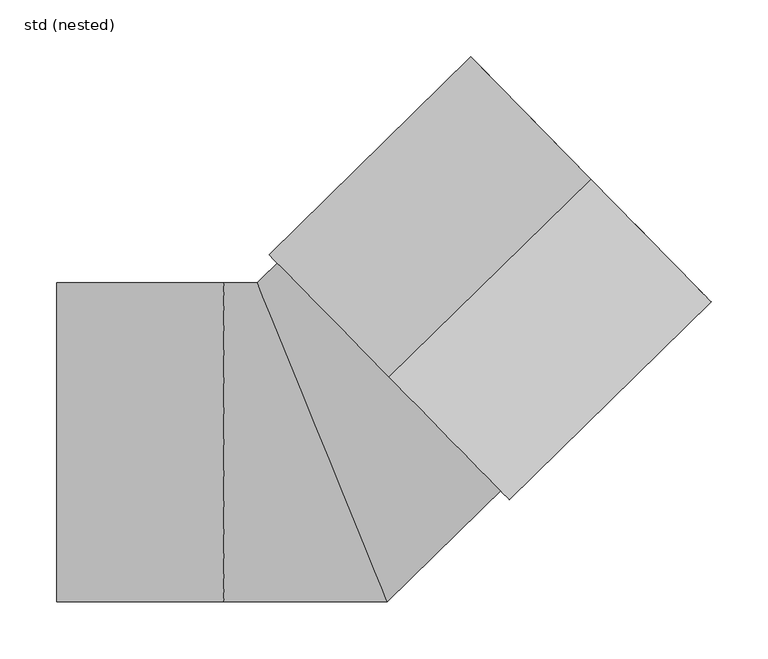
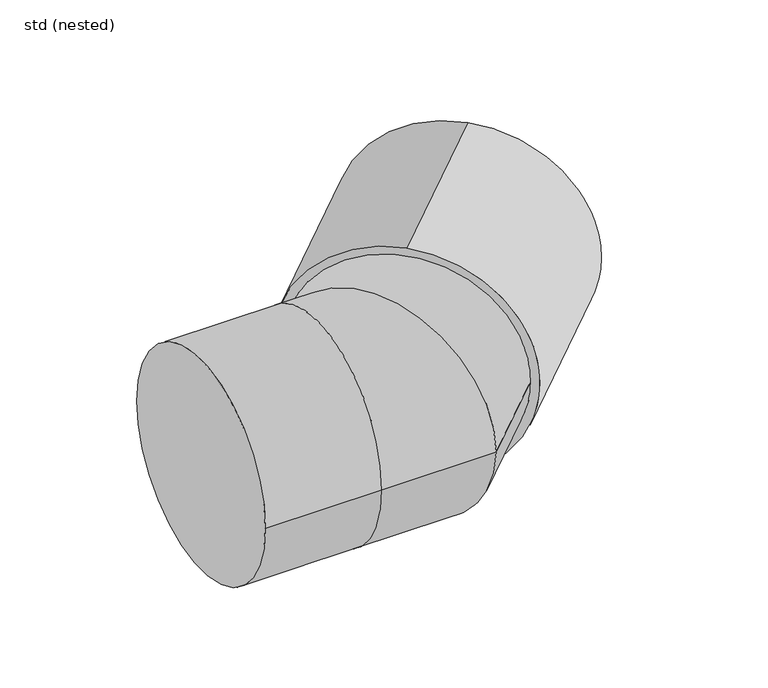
"""IFC4 building model written with IfcOpenShell, lengths in millimetres: pipe fitting geometry, NLRS_52_PIF_WPB_Ultra Kyma bocht 1MV SH_Dyka : std (nested)."""

from ifc_helpers import new_model, si_unit, point, frame, origin, origin_2d, place, context, project, spatial, circle_curve, ellipse_curve, trimmed, segment, composite_curve, outline, extrude, source, transform, mapped, element, save
from ifc_brep_helpers import plane_surface, cylinder_surface, advanced_brep


def std_nested_61e00e23(model_context):
    return source(origin(), model_context, "Body", "SolidModel", [
        advanced_brep(
        [(-86.5741292, -140.0, 0.0), (57.1715948, -140.0, 0.0), (-57.1715948, 140.0, 0.0), (-86.5741292, 140.0, 0.0), (159.8263735, -39.3777879, 0.0), (61.8261736, 60.6020141, 140.0), (-36.1740264, 160.5818161, 0.0), (61.8261736, 60.6020141, -140.0), (147.1131373, 144.2002942, -140.0), (147.1131373, 144.2002942, 140.0), (-233.0, -140.0, 0.0), (-233.0, 140.0, 0.0)],
        [
            (0, 1),
            (1, 2, ellipse_curve(frame((0.0, 0.0, 0.0), z_axis=(-0.9257811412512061, -0.3780598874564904, 0.0), x_axis=(-0.37805988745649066, 0.925781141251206, 0.0)), 151.2236465, 140.0)),
            (2, 3),
            (3, 0, circle_curve(frame((-86.5741292, 0.0, 0.0), z_axis=(1.0, 0.0, 0.0), x_axis=(0.0, 1.0, 0.0)), 140.0)),
            (0, 3, circle_curve(frame((-86.5741292, 0.0, 0.0), z_axis=(1.0, 0.0, 0.0), x_axis=(0.0, 1.0, 0.0)), 140.0)),
            (2, 1, ellipse_curve(frame((0.0, 0.0, 0.0), z_axis=(-0.9257811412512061, -0.3780598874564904, 0.0), x_axis=(-0.37805988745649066, 0.925781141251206, 0.0)), 151.2236465, 140.0)),
            (1, 4),
            (4, 5, circle_curve(frame((61.8261736, 60.6020141, 0.0), z_axis=(-0.714141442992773, -0.7000014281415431, 0.0), x_axis=(-0.7000014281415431, 0.714141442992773, 0.0)), 140.0)),
            (5, 6, circle_curve(frame((61.8261736, 60.6020141, 0.0), z_axis=(-0.714141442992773, -0.7000014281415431, 0.0), x_axis=(-0.7000014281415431, 0.714141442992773, 0.0)), 140.0)),
            (6, 2),
            (6, 7, circle_curve(frame((61.8261736, 60.6020141, 0.0), z_axis=(-0.714141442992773, -0.7000014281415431, 0.0), x_axis=(-0.7000014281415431, 0.714141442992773, 0.0)), 140.0)),
            (7, 4, circle_curve(frame((61.8261736, 60.6020141, 0.0), z_axis=(-0.714141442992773, -0.7000014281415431, 0.0), x_axis=(-0.7000014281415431, 0.714141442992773, 0.0)), 140.0)),
            (8, 9, circle_curve(frame((147.1131373, 144.2002942, 0.0), z_axis=(0.7141414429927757, 0.7000014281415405, 0.0), x_axis=(0.0, 0.0, 1.0)), 140.0)),
            (9, 8, circle_curve(frame((147.1131373, 144.2002942, 0.0), z_axis=(0.7141414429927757, 0.7000014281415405, 0.0), x_axis=(0.0, 0.0, 1.0)), 140.0)),
            (8, 7),
            (5, 9),
            (10, 11, circle_curve(frame((-233.0, 0.0, 0.0), z_axis=(-1.0, 0.0, 0.0), x_axis=(0.0, 1.0, 0.0)), 140.0)),
            (11, 10, circle_curve(frame((-233.0, 0.0, 0.0), z_axis=(-1.0, 0.0, 0.0), x_axis=(0.0, 1.0, 0.0)), 140.0)),
            (10, 0),
            (3, 11),
        ],
        [
            cylinder_surface(frame((-86.5741292, 0.0, 0.0), z_axis=(-1.0, 0.0, 0.0), x_axis=(0.0, 1.0, 0.0)), 140.0),
            cylinder_surface(frame((0.0, 0.0, 0.0), z_axis=(-0.714141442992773, -0.7000014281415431, 0.0), x_axis=(-0.7000014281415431, 0.714141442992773, 0.0)), 140.0),
            plane_surface(frame((147.1131373, 144.2002942, 140.0), z_axis=(0.7141414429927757, 0.7000014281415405, 0.0), x_axis=(0.7000014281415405, -0.7141414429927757, 0.0))),
            cylinder_surface(frame((61.8261736, 60.6020141, 0.0), z_axis=(0.7141414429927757, 0.7000014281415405, 0.0), x_axis=(0.0, 0.0, 1.0)), 140.0),
            plane_surface(frame((-233.0, 140.0, 0.0), z_axis=(-1.0, 0.0, 0.0), x_axis=(0.0, 0.0, -1.0))),
        ],
        [
            (0, [[1, 2, 3, 4]]),
            (0, [[-1, 5, -3, 6]]),
            (1, [[-2, 7, 8, 9, 10]]),
            (1, [[-6, -10, 11, 12, -7]]),
            (2, [[13, 14]]),
            (3, [[-13, 15, -11, -9, 16]]),
            (3, [[-14, -16, -8, -12, -15]]),
            (4, [[17, 18]]),
            (0, [[-17, 19, -4, 20]]),
            (0, [[-18, -20, -5, -19]]),
        ],
    ),
        extrude(outline(composite_curve([segment(trimmed(circle_curve(origin_2d(), 151.0), [point((-151.0, 0.0))], [point((151.0, 0.0))], False, "CARTESIAN"), True, "CONTINUOUS"), segment(trimmed(circle_curve(origin_2d(), 151.0), [point((151.0, 0.0))], [point((-151.0, 0.0))], False, "CARTESIAN"), True, "CONTINUOUS")], self_intersect=False), holes=[composite_curve([segment(trimmed(circle_curve(origin_2d(), 140.0), [point((140.0, 0.0))], [point((-140.0, 0.0))], True, "CARTESIAN"), True, "CONTINUOUS"), segment(trimmed(circle_curve(origin_2d(), 140.0), [point((-140.0, 0.0))], [point((140.0, 0.0))], True, "CARTESIAN"), True, "CONTINUOUS")], self_intersect=False)]), frame((58.5595983, 57.4001171, 0.0), z_axis=(0.7141414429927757, 0.7000014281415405, 0.0), x_axis=(0.0, 0.0, 1.0)), (0.0, 0.0, 1.0), 248.0),
    ])


if __name__ == "__main__":
    model = new_model("IFC4")
    model_context = context("Model", 3, world=origin())
    ifc_project = project(units=[si_unit("LENGTHUNIT", "METRE", prefix="MILLI")], contexts=[model_context])
    site = spatial("IfcSite", under=ifc_project)
    building = spatial("IfcBuilding", under=site)
    placement = place(None, origin())
    std_nested_shape = std_nested_61e00e23(model_context)
    element("IfcPipeFitting", 1, ObjectType="NLRS_52_PIF_WPB_Ultra Kyma bocht 1MV SH_Dyka : std (nested)", at=placement, inside=building, context=model_context, shape_type="MappedRepresentation", body=[
        mapped(std_nested_shape, transform((0.0, 0.0, 0.0), x_axis=(1.0, 0.0, 0.0), y_axis=(0.0, 1.0, 0.0), z_axis=(0.0, 0.0, 1.0))),
    ])
    save(model, "model.ifc")
